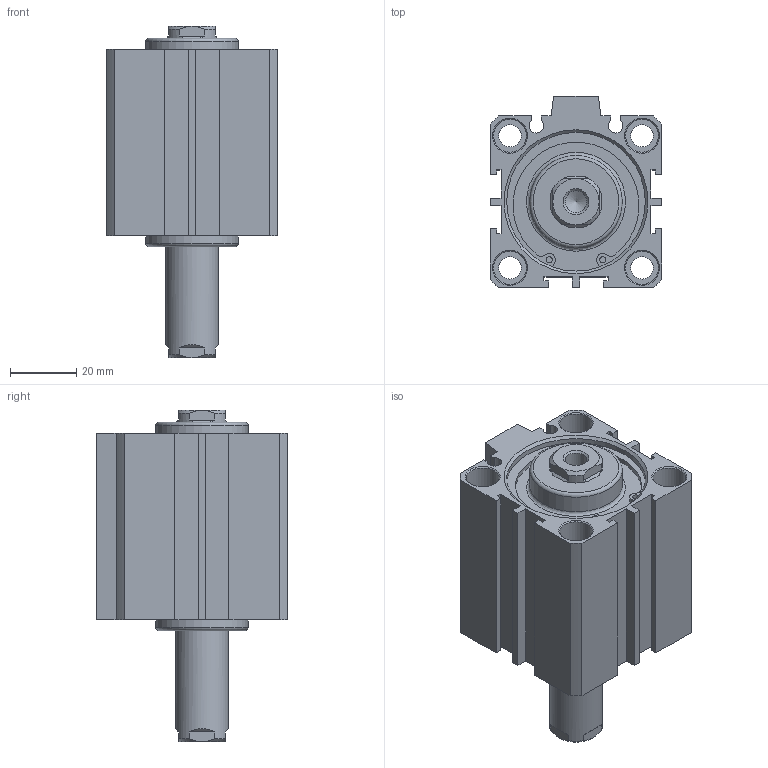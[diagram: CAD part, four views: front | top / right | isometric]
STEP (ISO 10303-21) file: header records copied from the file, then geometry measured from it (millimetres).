
FILE_DESCRIPTION((''),'2;1');
FILE_NAME('I:\3D電子目錄\氣缸\JDD\JDD\JDD40\JDD40x30.stp','2007-02-08T10:51:33',('662F206'),(''),'Autodesk Inventor 10','Autodesk Inventor 10','');
FILE_SCHEMA(('AUTOMOTIVE_DESIGN { 1 0 10303 214 1 1 1 1 }'));
Length unit declared in the file: millimetre
Products named in the file (3): JDD40; R 形環 42
Assembly tree (3 placements, depth 2):
  JDD40
    JDD40
    R 形環 42  x2
Bounding box: 52 x 58 x 100.5 mm (x, y, z)
Volume: 138721 mm3; surface area: 34935.3 mm2
Topology: 3 solids, 3 shells, 179 faces, 431 edges, 280 vertices
Faces by surface type: plane 98, cylinder 49, cone 24, bspline 6, torus 2
Full cylindrical faces by diameter (mm): 1.9 x4, 2.2 x2, 6.8 x4, 10 x8, 16 x1, 28 x2, 42 x4, 44.5 x2
Entity records: 4755 total; most frequent: CARTESIAN_POINT 955, DIRECTION 792, ORIENTED_EDGE 686, EDGE_CURVE 343, AXIS2_PLACEMENT_3D 298, VERTEX_POINT 251, EDGE_LOOP 250, VECTOR 196
